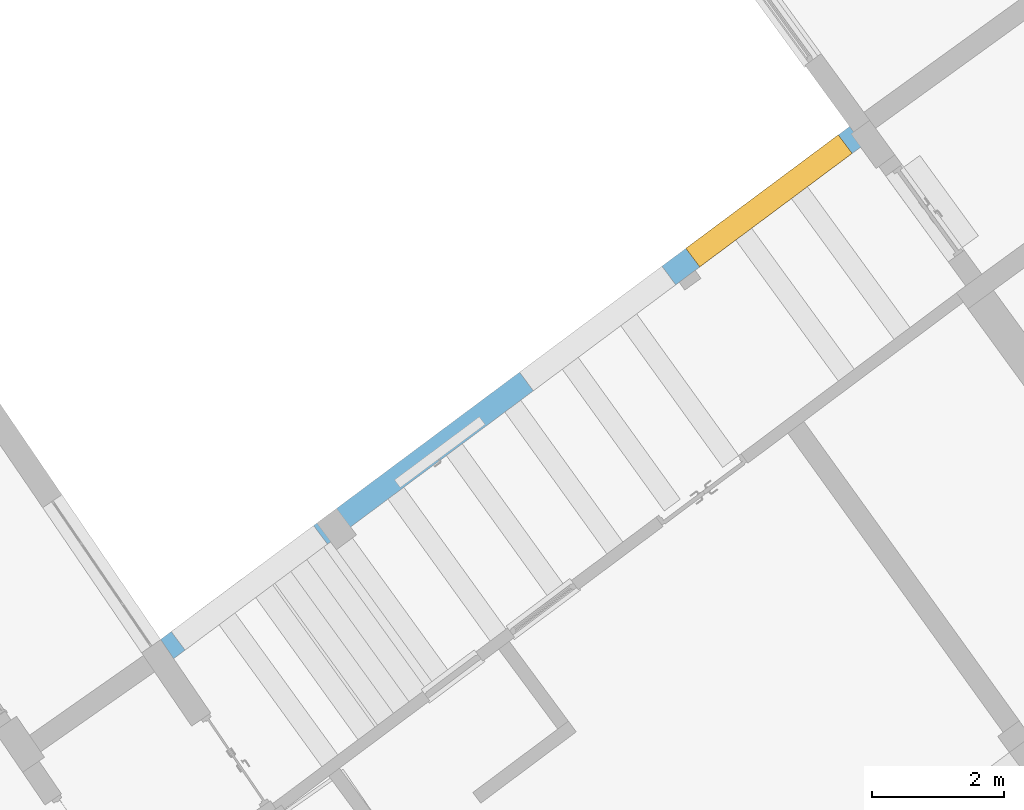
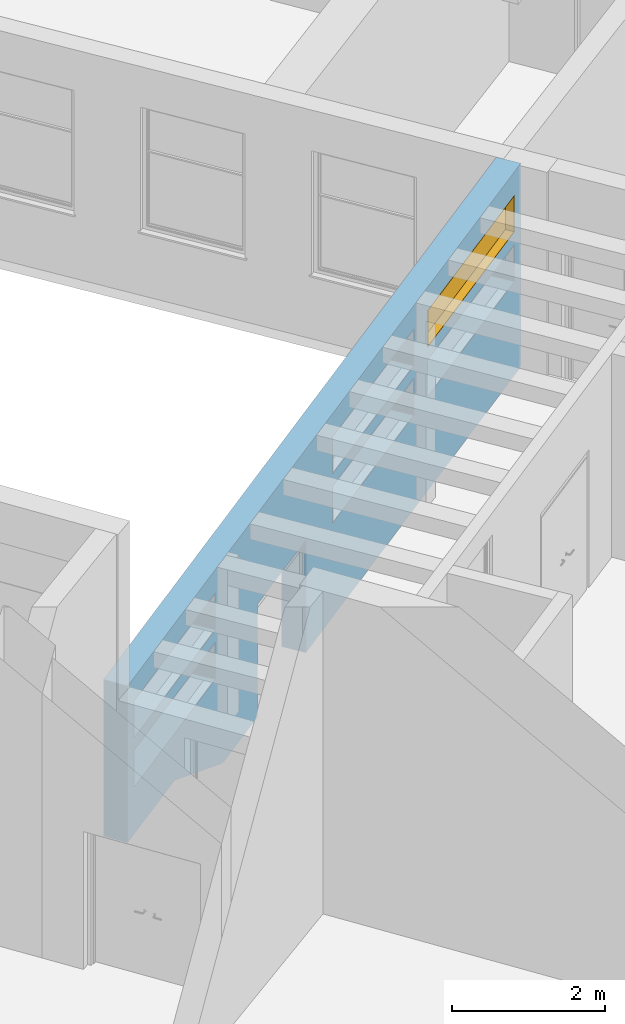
# One storey, part 143 of 157: 1 window, 7 openings, plus 1 element that does not belong to this part.
"""IFC2X3 building model written with IfcOpenShell, lengths in millimetres."""

from ifc_helpers import new_model, entity, si_unit, converted_unit, derived_unit, direction, frame, frame_2d, origin, origin_2d_with_axis, place, context, subcontext, project, spatial, polyline, rectangle, outline, extrude, faceted_brep, source, transform, mapped, material, material_list, layer, layer_set, type_object, type_shapes, element, fill, save


model = new_model("IFC2X3")

# Units and contexts
model_context = context("Model", 3, precision=0.01, world=origin(), true_north=direction((6.123031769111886e-17, 1.0)))
body_context = subcontext(model_context, "Body", "Model", "MODEL_VIEW")
ifc_project = project(units=[si_unit("LENGTHUNIT", "METRE", prefix="MILLI"), si_unit("AREAUNIT", "SQUARE_METRE"), si_unit("VOLUMEUNIT", "CUBIC_METRE"), converted_unit("PLANEANGLEUNIT", "DEGREE", entity("IfcRatioMeasure", 0.017453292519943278), si_unit("PLANEANGLEUNIT", "RADIAN"), dimensions=[0, 0, 0, 0, 0, 0, 0]), si_unit("MASSUNIT", "GRAM", prefix="KILO"), derived_unit("MASSDENSITYUNIT", [(si_unit("MASSUNIT", "GRAM", prefix="KILO"), 1), (si_unit("LENGTHUNIT", "METRE"), -3)]), derived_unit("MOMENTOFINERTIAUNIT", [(si_unit("LENGTHUNIT", "METRE"), 4)]), si_unit("TIMEUNIT", "SECOND"), si_unit("FREQUENCYUNIT", "HERTZ"), si_unit("THERMODYNAMICTEMPERATUREUNIT", "DEGREE_CELSIUS"), derived_unit("THERMALTRANSMITTANCEUNIT", [(si_unit("MASSUNIT", "GRAM", prefix="KILO"), 1), (si_unit("THERMODYNAMICTEMPERATUREUNIT", "KELVIN"), -1), (si_unit("TIMEUNIT", "SECOND"), -3)]), derived_unit("THERMALCONDUCTANCEUNIT", [(si_unit("MASSUNIT", "GRAM", prefix="KILO"), 1), (si_unit("LENGTHUNIT", "METRE"), 1), (si_unit("THERMODYNAMICTEMPERATUREUNIT", "KELVIN"), -1), (si_unit("TIMEUNIT", "SECOND"), -3)]), derived_unit("VOLUMETRICFLOWRATEUNIT", [(si_unit("LENGTHUNIT", "METRE"), 3), (si_unit("TIMEUNIT", "SECOND"), -1)]), derived_unit("MASSFLOWRATEUNIT", [(si_unit("MASSUNIT", "GRAM", prefix="KILO"), 1), (si_unit("TIMEUNIT", "SECOND"), -1)]), derived_unit("ROTATIONALFREQUENCYUNIT", [(si_unit("TIMEUNIT", "SECOND"), -1)]), si_unit("ELECTRICCURRENTUNIT", "AMPERE"), si_unit("ELECTRICVOLTAGEUNIT", "VOLT"), si_unit("POWERUNIT", "WATT"), converted_unit("FORCEUNIT", "KIP", entity("IfcRatioMeasure", 2.088543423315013e-05), si_unit("FORCEUNIT", "NEWTON"), dimensions=[1, 1, -2, 0, 0, 0, 0]), si_unit("ILLUMINANCEUNIT", "LUX"), si_unit("LUMINOUSFLUXUNIT", "LUMEN"), si_unit("LUMINOUSINTENSITYUNIT", "CANDELA"), derived_unit("USERDEFINED", [(si_unit("MASSUNIT", "GRAM", prefix="KILO"), -1), (si_unit("LENGTHUNIT", "METRE"), -2), (si_unit("TIMEUNIT", "SECOND"), 3), (si_unit("LUMINOUSFLUXUNIT", "LUMEN"), 1)]), derived_unit("USERDEFINED", [(si_unit("MASSUNIT", "GRAM", prefix="KILO"), 1), (si_unit("LENGTHUNIT", "METRE"), 3), (si_unit("TIMEUNIT", "SECOND"), -3), (si_unit("ELECTRICCURRENTUNIT", "AMPERE"), -2)]), derived_unit("USERDEFINED", [(si_unit("LENGTHUNIT", "METRE"), 2), (si_unit("TIMEUNIT", "SECOND"), -2)]), derived_unit("SOUNDPOWERUNIT", [(si_unit("MASSUNIT", "GRAM", prefix="KILO"), 1), (si_unit("LENGTHUNIT", "METRE"), 2), (si_unit("TIMEUNIT", "SECOND"), -3)]), derived_unit("SOUNDPRESSUREUNIT", [(si_unit("MASSUNIT", "GRAM", prefix="KILO"), 1), (si_unit("LENGTHUNIT", "METRE"), -1), (si_unit("TIMEUNIT", "SECOND"), -2)]), derived_unit("LINEARVELOCITYUNIT", [(si_unit("LENGTHUNIT", "METRE"), 1), (si_unit("TIMEUNIT", "SECOND"), -1)]), si_unit("PRESSUREUNIT", "PASCAL"), derived_unit("USERDEFINED", [(si_unit("LENGTHUNIT", "METRE"), -2), (si_unit("MASSUNIT", "GRAM", prefix="KILO"), 1), (si_unit("TIMEUNIT", "SECOND"), -2)]), derived_unit("LINEARFORCEUNIT", [(si_unit("MASSUNIT", "GRAM", prefix="KILO"), 1), (si_unit("LENGTHUNIT", "METRE"), 1), (si_unit("TIMEUNIT", "SECOND"), -2), (si_unit("LENGTHUNIT", "METRE"), -1)]), derived_unit("PLANARFORCEUNIT", [(si_unit("MASSUNIT", "GRAM", prefix="KILO"), 1), (si_unit("LENGTHUNIT", "METRE"), 1), (si_unit("TIMEUNIT", "SECOND"), -2), (si_unit("LENGTHUNIT", "METRE"), -2)]), derived_unit("SPECIFICHEATCAPACITYUNIT", [(si_unit("LENGTHUNIT", "METRE"), 2), (si_unit("TIMEUNIT", "SECOND"), -2), (si_unit("THERMODYNAMICTEMPERATUREUNIT", "KELVIN"), -1)]), derived_unit("VAPORPERMEABILITYUNIT", [(si_unit("TIMEUNIT", "SECOND"), 1), (si_unit("LENGTHUNIT", "METRE"), -1)]), derived_unit("DYNAMICVISCOSITYUNIT", [(si_unit("MASSUNIT", "GRAM", prefix="KILO"), 1), (si_unit("LENGTHUNIT", "METRE"), -1), (si_unit("TIMEUNIT", "SECOND"), -1)]), derived_unit("THERMALEXPANSIONCOEFFICIENTUNIT", [(si_unit("THERMODYNAMICTEMPERATUREUNIT", "KELVIN"), -1)])], contexts=[model_context])

# Site, building, storey
site_placement = place(None, frame((0.0, 0.0, 0.0), z_axis=(0.0, 0.0, 1.0), x_axis=(0.8191520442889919, 0.5735764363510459, 0.0)))
site = spatial("IfcSite", under=ifc_project, at=site_placement, Name="Default", CompositionType="ELEMENT")
building_placement = place(site_placement, origin())
building = spatial("IfcBuilding", under=site, at=building_placement, CompositionType="ELEMENT")
storey_placement = place(building_placement, origin())
storey = spatial("IfcBuildingStorey", under=building, at=storey_placement, Name="1.EG +0.00", CompositionType="ELEMENT", Elevation=-4.331468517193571e-12)

# Wall, openings, window
ifc_material_1 = material(Name="Analytical Wall Surface_CJC")
ifc_layer = layer(ifc_material_1, 350.0)
ifc_layer_set = layer_set([ifc_layer], Name="Basic Wall:Wand_Innen_35")
wall_type = type_object("IfcWallType", Name="Basic Wall:Wand_Innen_35", PredefinedType="STANDARD", material=ifc_layer_set)
wall_placement = place(storey_placement, frame((-204101.05348576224, 166996.005670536, -750.0), z_axis=(0.0, 0.0, 1.0), x_axis=(0.9995749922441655, 0.029151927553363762, 0.0)))
wall = element("IfcWall", 1, at=wall_placement, inside=storey, type_object=wall_type, Name="Basic Wall:Wand_Innen_35", ObjectType="Basic Wall:Wand_Innen_35", context=body_context, shape_type="Brep", body=[
    faceted_brep([(12984.138347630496, -175.0, 0.0), (12984.138347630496, -175.0, 3250.0), (11930.363742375, -175.0, 3250.0), (11630.346839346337, -175.0, 3250.0), (10880.30458177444, -175.0, 3250.0), (10580.287678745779, -175.0, 3250.0), (9815.893972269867, -175.0, 3250.0), (9515.854710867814, -175.0, 3250.0), (8715.750013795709, -175.0, 3250.0), (8415.710752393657, -175.0, 3250.0), (7615.606055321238, -175.0, 3250.0), (7315.566793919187, -175.0, 3250.0), (6533.797199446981, -175.0, 3250.0), (6233.757938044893, -175.0, 3250.0), (5433.653240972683, -175.0, 3250.0), (5133.613979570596, -175.0, 3250.0), (4333.509282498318, -175.0, 3250.0), (4033.4700210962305, -175.0, 3250.0), (3255.528447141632, -175.0, 3250.0), (2955.5004618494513, -175.0, 3250.0), (2205.5288961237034, -175.0, 3250.0), (1905.500757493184, -175.0, 3250.0), (1155.3068251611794, -175.0, 3250.0), (855.2816970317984, -175.0, 3250.0), (0.0, -175.0, 3250.0), (0.0, -175.0, 750.0), (1550.1638463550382, -175.0, 750.0), (3145.5153249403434, -175.0, 0.0), (4284.138347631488, -175.0, 0.0), (4284.138347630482, -175.0, 1800.0), (5884.138347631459, -175.0, 1800.0), (5884.138347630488, -175.0, 0.0), (9515.854710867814, -175.0, 0.0), (9815.893972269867, -175.0, 0.0), (2895.1186250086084, -175.0, 2090.0), (2895.1186250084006, -175.0, 1500.0), (215.11862500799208, -175.0, 1500.0), (215.11862500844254, -175.0, 2090.0), (9451.157462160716, -175.0, 2090.0), (9451.157462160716, -175.0, 1500.0), (6771.157462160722, -175.0, 1500.0), (6771.157462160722, -175.0, 2090.0), (12771.942690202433, -175.0, 2090.0), (12771.942690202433, -175.0, 1500.0), (9901.942690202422, -175.0, 1500.0), (9901.942690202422, -175.0, 2090.0), (12771.942690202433, -175.0, 2880.0), (12771.942690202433, -175.0, 2290.0), (9901.942690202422, -175.0, 2290.0), (9901.942690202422, -175.0, 2880.0), (9451.157462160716, -175.0, 2880.0), (9451.157462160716, -175.0, 2290.0), (6771.157462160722, -175.0, 2290.0), (6771.157462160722, -175.0, 2880.0), (2895.1186250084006, -175.0, 2880.0), (2895.1186250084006, -175.0, 2290.0), (215.1186250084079, -175.0, 2290.0), (215.1186250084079, -175.0, 2880.0), (12984.138347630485, 175.0, 3250.0), (12984.138347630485, 175.0, 0.0), (5884.138347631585, 175.0, 0.0), (5884.138347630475, 175.0, 1800.0), (4284.138347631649, 175.0, 1800.0), (4284.13834763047, 175.0, 0.0), (3145.515324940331, 175.0, 0.0), (1550.1638463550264, 175.0, 750.0), (14.668675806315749, 175.0, 750.0), (14.668675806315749, 175.0, 3250.0), (2895.118625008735, 175.0, 1500.0), (2895.118625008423, 175.0, 2090.0), (215.11862500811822, 175.0, 2090.0), (215.1186250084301, 175.0, 1500.0), (9451.157462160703, 175.0, 1500.0), (9451.157462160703, 175.0, 2090.0), (6771.15746216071, 175.0, 2090.0), (6771.15746216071, 175.0, 1500.0), (12771.942690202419, 175.0, 1500.0), (12771.942690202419, 175.0, 2090.0), (9901.94269020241, 175.0, 2090.0), (9901.94269020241, 175.0, 1500.0), (12771.942690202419, 175.0, 2290.0), (12771.942690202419, 175.0, 2880.0), (9901.94269020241, 175.0, 2880.0), (9901.94269020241, 175.0, 2290.0), (9451.157462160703, 175.0, 2290.0), (9451.157462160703, 175.0, 2880.0), (6771.15746216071, 175.0, 2880.0), (6771.15746216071, 175.0, 2290.0), (2895.1186250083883, 175.0, 2290.0), (2895.1186250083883, 175.0, 2880.0), (215.11862500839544, 175.0, 2880.0), (215.11862500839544, 175.0, 2290.0)], [[[0, 1, 2, 3, 4, 5, 6, 7, 8, 9, 10, 11, 12, 13, 14, 15, 16, 17, 18, 19, 20, 21, 22, 23, 24, 25, 26, 27, 28, 29, 30, 31, 32, 33], [34, 35, 36, 37], [38, 39, 40, 41], [42, 43, 44, 45], [46, 47, 48, 49], [50, 51, 52, 53], [54, 55, 56, 57]], [[58, 59, 60, 61, 62, 63, 64, 65, 66, 67], [68, 69, 70, 71], [72, 73, 74, 75], [76, 77, 78, 79], [80, 81, 82, 83], [84, 85, 86, 87], [88, 89, 90, 91]], [[25, 24, 67, 66]], [[27, 64, 63, 28]], [[1, 0, 59, 58]], [[24, 23, 22, 21, 20, 19, 18, 17, 16, 15, 14, 13, 12, 11, 10, 9, 8, 7, 6, 5, 4, 3, 2, 1, 58, 67]], [[26, 25, 66, 65]], [[27, 26, 65, 64]], [[62, 29, 28, 63]], [[29, 62, 61, 30]], [[30, 61, 60, 31]], [[68, 35, 34, 69]], [[69, 34, 37, 70]], [[70, 37, 36, 71]], [[35, 68, 71, 36]], [[73, 72, 39, 38]], [[74, 73, 38, 41]], [[75, 74, 41, 40]], [[72, 75, 40, 39]], [[77, 76, 43, 42]], [[78, 77, 42, 45]], [[79, 78, 45, 44]], [[76, 79, 44, 43]], [[81, 80, 47, 46]], [[82, 81, 46, 49]], [[83, 82, 49, 48]], [[80, 83, 48, 47]], [[85, 84, 51, 50]], [[86, 85, 50, 53]], [[87, 86, 53, 52]], [[84, 87, 52, 51]], [[89, 88, 55, 54]], [[90, 89, 54, 57]], [[91, 90, 57, 56]], [[88, 91, 56, 55]], [[59, 0, 33, 32, 31, 60]]]),
])
opening_1_placement = place(wall_placement, frame((5884.138347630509, 175.0, -400.0)))
element("IfcOpeningElement", 2, at=opening_1_placement, cuts=wall, Name="M_Door-Passage-Double-Flush:150x210:1", ObjectType="Opening", context=body_context, shape_type="SweptSolid", body=[
    extrude(rectangle(XDim=2200.0, YDim=1599.999999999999, at=frame_2d((1100.0, 799.9999999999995), x_axis=(1.0, 0.0))), frame((0.0, 0.0, 0.0), z_axis=(0.0, -1.0, 0.0), x_axis=(0.0, 0.0, 1.0)), (0.0, 0.0, 1.0), 350.0),
])
opening_2_placement = place(wall_placement, frame((2895.1186250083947, 175.0, 1500.0)))
element("IfcOpeningElement", 3, at=opening_2_placement, cuts=wall, Name="WINDOW_Glass_Block:WINDOW_Glass_Block_14x3:1", ObjectType="Opening", context=body_context, shape_type="SweptSolid", body=[
    extrude(rectangle(XDim=589.9999999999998, YDim=2679.999999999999, at=frame_2d((294.99999999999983, 1339.9999999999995), x_axis=(1.0, 0.0))), frame((0.0, 0.0, 0.0), z_axis=(0.0, -1.0, 0.0), x_axis=(0.0, 0.0, 1.0)), (0.0, 0.0, 1.0), 350.0),
])
opening_3_placement = place(wall_placement, frame((9451.157462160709, 175.0, 1500.0)))
element("IfcOpeningElement", 4, at=opening_3_placement, cuts=wall, Name="WINDOW_Glass_Block:WINDOW_Glass_Block_14x3:1", ObjectType="Opening", context=body_context, shape_type="SweptSolid", body=[
    extrude(rectangle(XDim=589.9999999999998, YDim=2679.999999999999, at=frame_2d((294.99999999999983, 1339.9999999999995), x_axis=(1.0, 0.0))), frame((0.0, 0.0, 0.0), z_axis=(0.0, -1.0, 0.0), x_axis=(0.0, 0.0, 1.0)), (0.0, 0.0, 1.0), 350.0),
])
opening_4_placement = place(wall_placement, frame((12771.942690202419, 175.0, 1500.0)))
element("IfcOpeningElement", 5, at=opening_4_placement, cuts=wall, Name="WINDOW_Glass_Block:WINDOW_Glass_Block_15x3:1", ObjectType="Opening", context=body_context, shape_type="SweptSolid", body=[
    extrude(rectangle(XDim=589.9999999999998, YDim=2869.9999999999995, at=frame_2d((294.99999999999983, 1435.0000000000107), x_axis=(1.0, 0.0))), frame((0.0, 0.0, 0.0), z_axis=(0.0, -1.0, 0.0), x_axis=(0.0, 0.0, 1.0)), (0.0, 0.0, 1.0), 350.0),
])
opening_5_placement = place(wall_placement, frame((2895.1186250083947, 175.0, 2290.0)))
element("IfcOpeningElement", 6, at=opening_5_placement, cuts=wall, Name="WINDOW_Glass_Block:WINDOW_Glass_Block_14x3:1", ObjectType="Opening", context=body_context, shape_type="SweptSolid", body=[
    extrude(rectangle(XDim=589.9999999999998, YDim=2679.999999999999, at=frame_2d((294.99999999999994, 1339.9999999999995), x_axis=(1.0, 0.0))), frame((0.0, 0.0, 0.0), z_axis=(0.0, -1.0, 0.0), x_axis=(0.0, 0.0, 1.0)), (0.0, 0.0, 1.0), 350.0),
])
opening_6_placement = place(wall_placement, frame((9451.157462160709, 175.0, 2290.0)))
element("IfcOpeningElement", 7, at=opening_6_placement, cuts=wall, Name="WINDOW_Glass_Block:WINDOW_Glass_Block_14x3:1", ObjectType="Opening", context=body_context, shape_type="SweptSolid", body=[
    extrude(rectangle(XDim=589.9999999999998, YDim=2679.999999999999, at=frame_2d((294.99999999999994, 1339.9999999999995), x_axis=(1.0, 0.0))), frame((0.0, 0.0, 0.0), z_axis=(0.0, -1.0, 0.0), x_axis=(0.0, 0.0, 1.0)), (0.0, 0.0, 1.0), 350.0),
])
opening_7_placement = place(wall_placement, frame((12771.942690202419, 175.0, 2290.0)))
opening_7 = element("IfcOpeningElement", 8, at=opening_7_placement, cuts=wall, Name="WINDOW_Glass_Block:WINDOW_Glass_Block_15x3:1", ObjectType="Opening", context=body_context, shape_type="SweptSolid", body=[
    extrude(rectangle(XDim=589.9999999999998, YDim=2869.9999999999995, at=frame_2d((294.99999999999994, 1435.0000000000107), x_axis=(1.0, 0.0))), frame((0.0, 0.0, 0.0), z_axis=(0.0, -1.0, 0.0), x_axis=(0.0, 0.0, 1.0)), (0.0, 0.0, 1.0), 350.0),
])
ifc_material_2 = material(Name="Glass")
ifc_material_3 = material(Name="Wood")
ifc_material_list = material_list([ifc_material_2, ifc_material_3])
window_style = type_object("IfcWindowStyle", Name="WINDOW_Glass_Block:WINDOW_Glass_Block_15x3", ConstructionType="NOTDEFINED", OperationType="NOTDEFINED", ParameterTakesPrecedence=False, Sizeable=False, material=ifc_material_list)
shared_shape = source(origin(), body_context, "Body", "SweptSolid", [
    extrude(rectangle(XDim=190.0000000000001, YDim=100.0, at=origin_2d_with_axis()), frame((2575.0, 175.0, 200.0), z_axis=(0.0, 0.0, 1.0), x_axis=(-1.0, 0.0, 0.0)), (0.0, 0.0, 1.0), 189.99999999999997),
    extrude(rectangle(XDim=190.0, YDim=100.0, at=frame_2d((-6.394884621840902e-14, 0.0), x_axis=(1.0, 0.0))), frame((2385.0, 175.0, 200.0), z_axis=(0.0, 0.0, 1.0), x_axis=(-1.0, 0.0, 0.0)), (0.0, 0.0, 1.0), 189.99999999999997),
    extrude(rectangle(XDim=190.0, YDim=100.0, at=frame_2d((6.394884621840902e-14, 0.0), x_axis=(1.0, 0.0))), frame((2195.0, 175.0, 200.0), z_axis=(0.0, 0.0, 1.0), x_axis=(-1.0, 0.0, 0.0)), (0.0, 0.0, 1.0), 189.99999999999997),
    extrude(rectangle(XDim=190.0, YDim=100.0, at=frame_2d((-6.394884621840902e-14, 0.0), x_axis=(1.0, 0.0))), frame((2005.0, 175.0, 200.0), z_axis=(0.0, 0.0, 1.0), x_axis=(-1.0, 0.0, 0.0)), (0.0, 0.0, 1.0), 189.99999999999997),
    extrude(rectangle(XDim=189.99999999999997, YDim=100.0, at=origin_2d_with_axis()), frame((1815.0, 175.0, 200.0), z_axis=(0.0, 0.0, 1.0), x_axis=(-1.0, 0.0, 0.0)), (0.0, 0.0, 1.0), 189.99999999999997),
    extrude(rectangle(XDim=190.0, YDim=100.0, at=frame_2d((-2.1316282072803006e-14, 0.0), x_axis=(1.0, 0.0))), frame((1625.0, 175.0, 200.0), z_axis=(0.0, 0.0, 1.0), x_axis=(-1.0, 0.0, 0.0)), (0.0, 0.0, 1.0), 189.99999999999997),
    extrude(rectangle(XDim=190.00000000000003, YDim=100.0, at=origin_2d_with_axis()), frame((1435.0, 175.0, 200.0), z_axis=(0.0, 0.0, 1.0), x_axis=(-1.0, 0.0, 0.0)), (0.0, 0.0, 1.0), 189.99999999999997),
    extrude(rectangle(XDim=190.0, YDim=100.0, at=frame_2d((-2.1316282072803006e-14, 0.0), x_axis=(1.0, 0.0))), frame((1245.0, 175.0, 200.0), z_axis=(0.0, 0.0, 1.0), x_axis=(-1.0, 0.0, 0.0)), (0.0, 0.0, 1.0), 189.99999999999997),
    extrude(rectangle(XDim=190.0, YDim=100.0, at=frame_2d((-2.1316282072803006e-14, 0.0), x_axis=(1.0, 0.0))), frame((1055.0, 175.0, 200.0), z_axis=(0.0, 0.0, 1.0), x_axis=(-1.0, 0.0, 0.0)), (0.0, 0.0, 1.0), 189.99999999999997),
    extrude(rectangle(XDim=190.0, YDim=100.0, at=frame_2d((-6.394884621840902e-14, 0.0), x_axis=(1.0, 0.0))), frame((865.0, 175.0, 200.0), z_axis=(0.0, 0.0, 1.0), x_axis=(-1.0, 0.0, 0.0)), (0.0, 0.0, 1.0), 189.99999999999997),
    extrude(rectangle(XDim=190.0, YDim=100.0, at=frame_2d((6.394884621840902e-14, 0.0), x_axis=(1.0, 0.0))), frame((675.0, 175.0, 200.0), z_axis=(0.0, 0.0, 1.0), x_axis=(-1.0, 0.0, 0.0)), (0.0, 0.0, 1.0), 189.99999999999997),
    extrude(rectangle(XDim=190.0, YDim=100.0, at=frame_2d((-6.394884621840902e-14, 0.0), x_axis=(1.0, 0.0))), frame((485.0, 175.0, 200.0), z_axis=(0.0, 0.0, 1.0), x_axis=(-1.0, 0.0, 0.0)), (0.0, 0.0, 1.0), 189.99999999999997),
    extrude(rectangle(XDim=190.0, YDim=100.0, at=frame_2d((-6.394884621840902e-14, 0.0), x_axis=(1.0, 0.0))), frame((295.0, 175.0, 200.0), z_axis=(0.0, 0.0, 1.0), x_axis=(-1.0, 0.0, 0.0)), (0.0, 0.0, 1.0), 189.99999999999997),
    extrude(rectangle(XDim=190.0000000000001, YDim=100.0, at=origin_2d_with_axis()), frame((2765.0, 175.0, 200.0), z_axis=(0.0, 0.0, 1.0), x_axis=(-1.0, 0.0, 0.0)), (0.0, 0.0, 1.0), 189.99999999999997),
    extrude(rectangle(XDim=190.0000000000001, YDim=100.0, at=origin_2d_with_axis()), frame((105.0, 175.0, 200.0), z_axis=(0.0, 0.0, 1.0), x_axis=(-1.0, 0.0, 0.0)), (0.0, 0.0, 1.0), 189.99999999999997),
    extrude(rectangle(XDim=190.0000000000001, YDim=100.0, at=origin_2d_with_axis()), frame((2575.0, 175.0, 390.0), z_axis=(0.0, 0.0, 1.0), x_axis=(-1.0, 0.0, 0.0)), (0.0, 0.0, 1.0), 190.0000000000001),
    extrude(rectangle(XDim=190.0, YDim=100.0, at=frame_2d((-6.394884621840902e-14, 0.0), x_axis=(1.0, 0.0))), frame((2385.0, 175.0, 390.0), z_axis=(0.0, 0.0, 1.0), x_axis=(-1.0, 0.0, 0.0)), (0.0, 0.0, 1.0), 190.0000000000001),
    extrude(rectangle(XDim=190.0, YDim=100.0, at=frame_2d((6.394884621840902e-14, 0.0), x_axis=(1.0, 0.0))), frame((2195.0, 175.0, 390.0), z_axis=(0.0, 0.0, 1.0), x_axis=(-1.0, 0.0, 0.0)), (0.0, 0.0, 1.0), 190.0000000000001),
    extrude(rectangle(XDim=190.0, YDim=100.0, at=frame_2d((-6.394884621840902e-14, 0.0), x_axis=(1.0, 0.0))), frame((2005.0, 175.0, 390.0), z_axis=(0.0, 0.0, 1.0), x_axis=(-1.0, 0.0, 0.0)), (0.0, 0.0, 1.0), 190.0000000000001),
    extrude(rectangle(XDim=189.99999999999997, YDim=100.0, at=origin_2d_with_axis()), frame((1815.0, 175.0, 390.0), z_axis=(0.0, 0.0, 1.0), x_axis=(-1.0, 0.0, 0.0)), (0.0, 0.0, 1.0), 190.0000000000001),
    extrude(rectangle(XDim=190.0, YDim=100.0, at=frame_2d((-2.1316282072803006e-14, 0.0), x_axis=(1.0, 0.0))), frame((1625.0, 175.0, 390.0), z_axis=(0.0, 0.0, 1.0), x_axis=(-1.0, 0.0, 0.0)), (0.0, 0.0, 1.0), 190.0000000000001),
    extrude(rectangle(XDim=190.00000000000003, YDim=100.0, at=origin_2d_with_axis()), frame((1435.0, 175.0, 390.0), z_axis=(0.0, 0.0, 1.0), x_axis=(-1.0, 0.0, 0.0)), (0.0, 0.0, 1.0), 190.0000000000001),
    extrude(rectangle(XDim=190.0, YDim=100.0, at=frame_2d((-2.1316282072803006e-14, 0.0), x_axis=(1.0, 0.0))), frame((1245.0, 175.0, 390.0), z_axis=(0.0, 0.0, 1.0), x_axis=(-1.0, 0.0, 0.0)), (0.0, 0.0, 1.0), 190.0000000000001),
    extrude(rectangle(XDim=190.0, YDim=100.0, at=frame_2d((-2.1316282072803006e-14, 0.0), x_axis=(1.0, 0.0))), frame((1055.0, 175.0, 390.0), z_axis=(0.0, 0.0, 1.0), x_axis=(-1.0, 0.0, 0.0)), (0.0, 0.0, 1.0), 190.0000000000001),
    extrude(rectangle(XDim=190.0, YDim=100.0, at=frame_2d((-6.394884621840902e-14, 0.0), x_axis=(1.0, 0.0))), frame((865.0, 175.0, 390.0), z_axis=(0.0, 0.0, 1.0), x_axis=(-1.0, 0.0, 0.0)), (0.0, 0.0, 1.0), 190.0000000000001),
    extrude(rectangle(XDim=190.0, YDim=100.0, at=frame_2d((6.394884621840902e-14, 0.0), x_axis=(1.0, 0.0))), frame((675.0, 175.0, 390.0), z_axis=(0.0, 0.0, 1.0), x_axis=(-1.0, 0.0, 0.0)), (0.0, 0.0, 1.0), 190.0000000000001),
    extrude(rectangle(XDim=190.0, YDim=100.0, at=frame_2d((-6.394884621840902e-14, 0.0), x_axis=(1.0, 0.0))), frame((485.0, 175.0, 390.0), z_axis=(0.0, 0.0, 1.0), x_axis=(-1.0, 0.0, 0.0)), (0.0, 0.0, 1.0), 190.0000000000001),
    extrude(rectangle(XDim=190.0, YDim=100.0, at=frame_2d((-6.394884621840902e-14, 0.0), x_axis=(1.0, 0.0))), frame((295.0, 175.0, 390.0), z_axis=(0.0, 0.0, 1.0), x_axis=(-1.0, 0.0, 0.0)), (0.0, 0.0, 1.0), 190.0000000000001),
    extrude(rectangle(XDim=190.0000000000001, YDim=100.0, at=origin_2d_with_axis()), frame((2765.0, 175.0, 390.0), z_axis=(0.0, 0.0, 1.0), x_axis=(-1.0, 0.0, 0.0)), (0.0, 0.0, 1.0), 190.0000000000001),
    extrude(rectangle(XDim=190.0000000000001, YDim=100.0, at=origin_2d_with_axis()), frame((105.0, 175.0, 390.0), z_axis=(0.0, 0.0, 1.0), x_axis=(-1.0, 0.0, 0.0)), (0.0, 0.0, 1.0), 190.0000000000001),
    extrude(rectangle(XDim=190.0000000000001, YDim=100.0, at=origin_2d_with_axis()), frame((2575.0, 175.0, 10.0), z_axis=(0.0, 0.0, 1.0), x_axis=(-1.0, 0.0, 0.0)), (0.0, 0.0, 1.0), 189.99999999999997),
    extrude(rectangle(XDim=190.0, YDim=100.0, at=frame_2d((-6.394884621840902e-14, 0.0), x_axis=(1.0, 0.0))), frame((2385.0, 175.0, 10.0), z_axis=(0.0, 0.0, 1.0), x_axis=(-1.0, 0.0, 0.0)), (0.0, 0.0, 1.0), 189.99999999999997),
    extrude(rectangle(XDim=190.0, YDim=100.0, at=frame_2d((6.394884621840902e-14, 0.0), x_axis=(1.0, 0.0))), frame((2195.0, 175.0, 10.0), z_axis=(0.0, 0.0, 1.0), x_axis=(-1.0, 0.0, 0.0)), (0.0, 0.0, 1.0), 189.99999999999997),
    extrude(rectangle(XDim=190.0, YDim=100.0, at=frame_2d((-6.394884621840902e-14, 0.0), x_axis=(1.0, 0.0))), frame((2005.0, 175.0, 10.0), z_axis=(0.0, 0.0, 1.0), x_axis=(-1.0, 0.0, 0.0)), (0.0, 0.0, 1.0), 189.99999999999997),
    extrude(rectangle(XDim=189.99999999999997, YDim=100.0, at=origin_2d_with_axis()), frame((1815.0, 175.0, 10.0), z_axis=(0.0, 0.0, 1.0), x_axis=(-1.0, 0.0, 0.0)), (0.0, 0.0, 1.0), 189.99999999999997),
    extrude(rectangle(XDim=190.0, YDim=100.0, at=frame_2d((-2.1316282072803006e-14, 0.0), x_axis=(1.0, 0.0))), frame((1625.0, 175.0, 10.0), z_axis=(0.0, 0.0, 1.0), x_axis=(-1.0, 0.0, 0.0)), (0.0, 0.0, 1.0), 189.99999999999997),
    extrude(rectangle(XDim=190.00000000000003, YDim=100.0, at=origin_2d_with_axis()), frame((1435.0, 175.0, 10.0), z_axis=(0.0, 0.0, 1.0), x_axis=(-1.0, 0.0, 0.0)), (0.0, 0.0, 1.0), 189.99999999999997),
    extrude(rectangle(XDim=190.0, YDim=100.0, at=frame_2d((-2.1316282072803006e-14, 0.0), x_axis=(1.0, 0.0))), frame((1245.0, 175.0, 10.0), z_axis=(0.0, 0.0, 1.0), x_axis=(-1.0, 0.0, 0.0)), (0.0, 0.0, 1.0), 189.99999999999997),
    extrude(rectangle(XDim=190.0, YDim=100.0, at=frame_2d((-2.1316282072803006e-14, 0.0), x_axis=(1.0, 0.0))), frame((1055.0, 175.0, 10.0), z_axis=(0.0, 0.0, 1.0), x_axis=(-1.0, 0.0, 0.0)), (0.0, 0.0, 1.0), 189.99999999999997),
    extrude(rectangle(XDim=190.0, YDim=100.0, at=frame_2d((-6.394884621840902e-14, 0.0), x_axis=(1.0, 0.0))), frame((865.0, 175.0, 10.0), z_axis=(0.0, 0.0, 1.0), x_axis=(-1.0, 0.0, 0.0)), (0.0, 0.0, 1.0), 189.99999999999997),
    extrude(rectangle(XDim=190.0, YDim=100.0, at=frame_2d((6.394884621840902e-14, 0.0), x_axis=(1.0, 0.0))), frame((675.0, 175.0, 10.0), z_axis=(0.0, 0.0, 1.0), x_axis=(-1.0, 0.0, 0.0)), (0.0, 0.0, 1.0), 189.99999999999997),
    extrude(rectangle(XDim=190.0, YDim=100.0, at=frame_2d((-6.394884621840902e-14, 0.0), x_axis=(1.0, 0.0))), frame((485.0, 175.0, 10.0), z_axis=(0.0, 0.0, 1.0), x_axis=(-1.0, 0.0, 0.0)), (0.0, 0.0, 1.0), 189.99999999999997),
    extrude(rectangle(XDim=190.0, YDim=100.0, at=frame_2d((-6.394884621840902e-14, 0.0), x_axis=(1.0, 0.0))), frame((295.0, 175.0, 10.0), z_axis=(0.0, 0.0, 1.0), x_axis=(-1.0, 0.0, 0.0)), (0.0, 0.0, 1.0), 189.99999999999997),
    extrude(rectangle(XDim=190.0000000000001, YDim=100.0, at=origin_2d_with_axis()), frame((2765.0, 175.0, 10.0), z_axis=(0.0, 0.0, 1.0), x_axis=(-1.0, 0.0, 0.0)), (0.0, 0.0, 1.0), 189.99999999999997),
    extrude(rectangle(XDim=190.0000000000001, YDim=100.0, at=origin_2d_with_axis()), frame((105.0, 175.0, 10.0), z_axis=(0.0, 0.0, 1.0), x_axis=(-1.0, 0.0, 0.0)), (0.0, 0.0, 1.0), 189.99999999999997),
    extrude(outline(polyline([(-295.0, -1435.0), (295.0, -1435.0), (295.0, 1435.0), (-295.0, 1435.0), (-295.0, -1435.0)]), holes=[polyline([(-285.0, -1425.0), (-285.0, 1425.0), (285.0, 1425.0), (285.0, -1425.0), (-285.0, -1425.0)])]), frame((1435.0, 0.0, 295.0), z_axis=(0.0, 1.0, 0.0), x_axis=(0.0, 0.0, -1.0)), (0.0, 0.0, 1.0), 350.0),
])
type_shapes(window_style, [shared_shape])
window_placement = place(opening_7_placement, frame((0.0, 0.0, 0.0), z_axis=(0.0, 0.0, 1.0), x_axis=(-1.0, 0.0, 0.0)))
window = element("IfcWindow", 9, at=window_placement, inside=storey, type_object=window_style, material=ifc_material_list, Name="WINDOW_Glass_Block:WINDOW_Glass_Block_15x3", ObjectType="WINDOW_Glass_Block:WINDOW_Glass_Block_15x3", OverallHeight=589.9999999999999, OverallWidth=2870.000000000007, context=body_context, shape_type="MappedRepresentation", body=[
    mapped(shared_shape, transform((0.0, 0.0, 0.0), scale=1.0)),
])
fill(opening_7, window)

save(model, "model.ifc")
